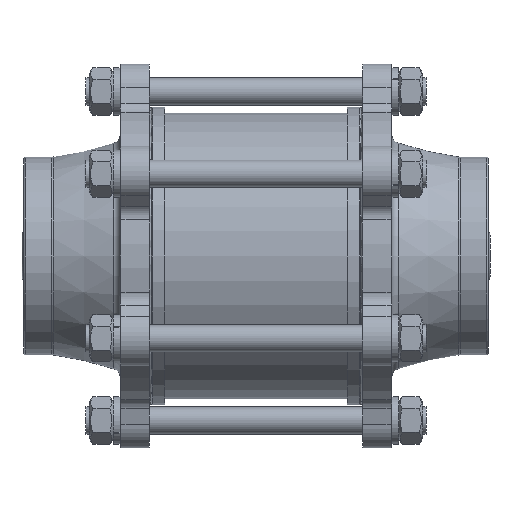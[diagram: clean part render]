
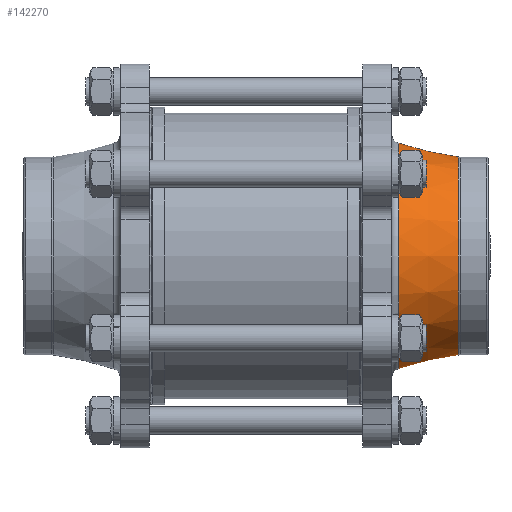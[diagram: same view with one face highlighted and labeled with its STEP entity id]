
A CAD part, front view. The second image highlights one B-rep face of the part: STEP entity #142270.
In plain terms, the highlighted conical face has half-angle 13 degrees and reference radius 66.504 mm.
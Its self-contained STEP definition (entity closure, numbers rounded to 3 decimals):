
#142208=CARTESIAN_POINT('',(82.875,65.609,0.0));
#142209=VERTEX_POINT('',#142208);
#142210=CARTESIAN_POINT('',(82.875,0.,0.));
#142211=DIRECTION('',(1.0,0.0,0.0));
#142212=DIRECTION('',(0.0,-1.0,0.0));
#142213=AXIS2_PLACEMENT_3D('',#142210,#142211,#142212);
#142214=CIRCLE('',#142213,65.609);
#142215=EDGE_CURVE('',#142209,#142209,#142214,.T.);
#142236=CARTESIAN_POINT('',(117.445,-57.628,0.));
#142237=VERTEX_POINT('',#142236);
#142238=CARTESIAN_POINT('',(117.445,0.,0.0));
#142239=DIRECTION('',(-1.0,0.0,0.0));
#142240=DIRECTION('',(0.0,-1.0,0.0));
#142241=AXIS2_PLACEMENT_3D('',#142238,#142239,#142240);
#142242=CIRCLE('',#142241,57.628);
#142243=EDGE_CURVE('',#142237,#142237,#142242,.T.);
#142259=CARTESIAN_POINT('',(79.0,0.,0.0));
#142260=DIRECTION('',(-1.0,0.0,0.0));
#142261=DIRECTION('',(0.0,1.0,0.0));
#142262=AXIS2_PLACEMENT_3D('',#142259,#142260,#142261);
#142263=CONICAL_SURFACE('',#142262,66.504,13.);
#142264=ORIENTED_EDGE('',*,*,#142243,.T.);
#142265=EDGE_LOOP('',(#142264));
#142266=FACE_OUTER_BOUND('',#142265,.T.);
#142267=ORIENTED_EDGE('',*,*,#142215,.T.);
#142268=EDGE_LOOP('',(#142267));
#142269=FACE_BOUND('',#142268,.T.);
#142270=ADVANCED_FACE('',(#142266,#142269),#142263,.T.);
